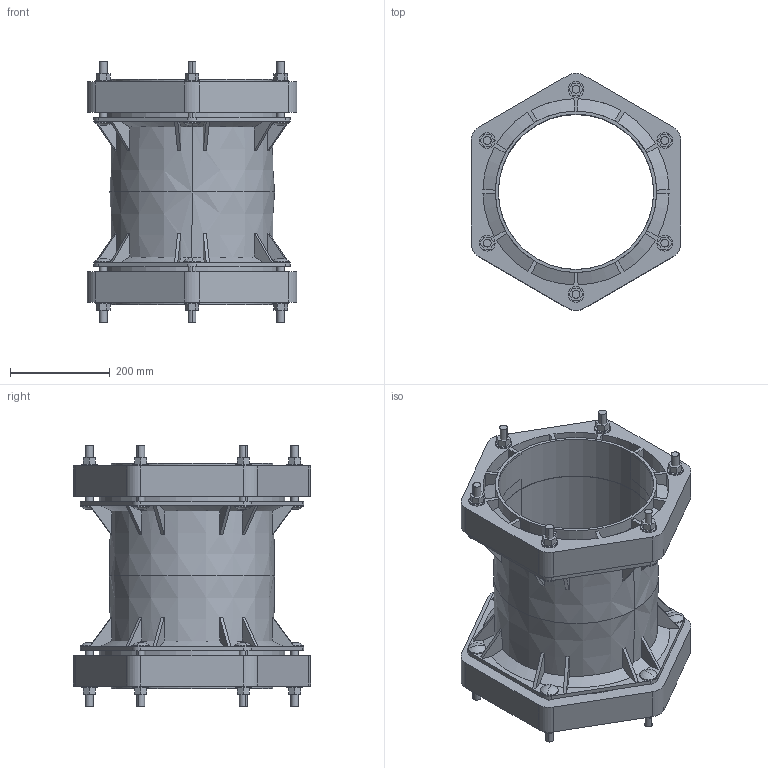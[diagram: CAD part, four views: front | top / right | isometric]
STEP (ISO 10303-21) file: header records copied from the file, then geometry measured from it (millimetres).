
FILE_DESCRIPTION((''),'2;1');
FILE_NAME('BIM_13198_10_ASM','2019-04-09T',('MReader'),(''),'CREO PARAMETRIC BY PTC INC, 2016130','CREO PARAMETRIC BY PTC INC, 2016130','');
FILE_SCHEMA(('CONFIG_CONTROL_DESIGN'));
Length unit declared in the file: millimetre
Products named in the file (3): BIM_13185; BIM_12294; BIM_13198_10_ASM
Assembly tree (3 placements, depth 2):
  BIM_13198_10_ASM
    BIM_13185
    BIM_12294  x2
Bounding box: 420.89 x 476.1 x 524 mm (x, y, z)
Volume: 13200437.6 mm3; surface area: 1762361.4 mm2
Topology: 3 solids, 3 shells, 480 faces, 1280 edges, 834 vertices
Faces by surface type: plane 262, cylinder 134, cone 60, sphere 24
Entity records: 10925 total; most frequent: CARTESIAN_POINT 2110, DIRECTION 1848, ORIENTED_EDGE 1808, EDGE_CURVE 904, AXIS2_PLACEMENT_3D 661, VERTEX_POINT 598, VECTOR 526, LINE 526
